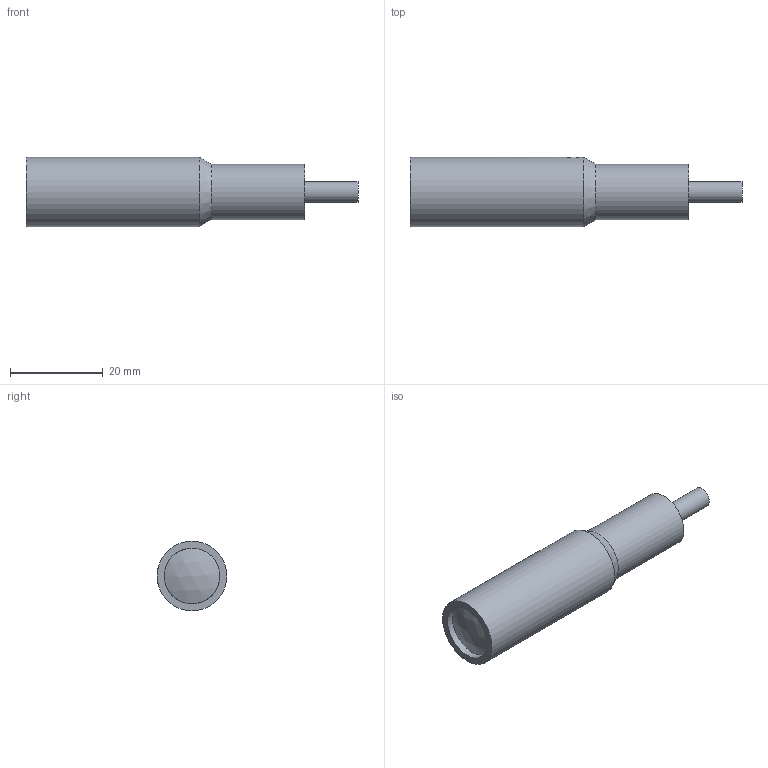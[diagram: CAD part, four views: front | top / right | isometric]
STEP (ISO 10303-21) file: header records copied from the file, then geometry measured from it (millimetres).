
FILE_DESCRIPTION((''),'2;1');
FILE_NAME('Q:\Konstruktion\E-Mail-Zeichnungen\STEP\KL-5_0368_00.stp','2013-01-21T15:19:39',('GuentherB'),(''),'Autodesk Inventor 2013','Autodesk Inventor 2013','');
FILE_SCHEMA(('AUTOMOTIVE_DESIGN { 1 0 10303 214 1 1 1 1 }'));
Length unit declared in the file: millimetre
Products named in the file (1): Bauteil8
Bounding box: 71.5 x 15 x 15 mm (x, y, z)
Volume: 9245.8 mm3; surface area: 3298.1 mm2
Topology: 1 solids, 1 shells, 25 faces, 55 edges, 35 vertices
Faces by surface type: plane 10, cylinder 8, cone 6, sphere 1
Full cylindrical faces by diameter (mm): 4.5 x1, 7 x1, 12 x2, 15 x1
Entity records: 774 total; most frequent: CARTESIAN_POINT 173, DIRECTION 110, ORIENTED_EDGE 94, AXIS2_PLACEMENT_3D 49, EDGE_CURVE 47, EDGE_LOOP 36, VERTEX_POINT 35, FACE_OUTER_BOUND 25
